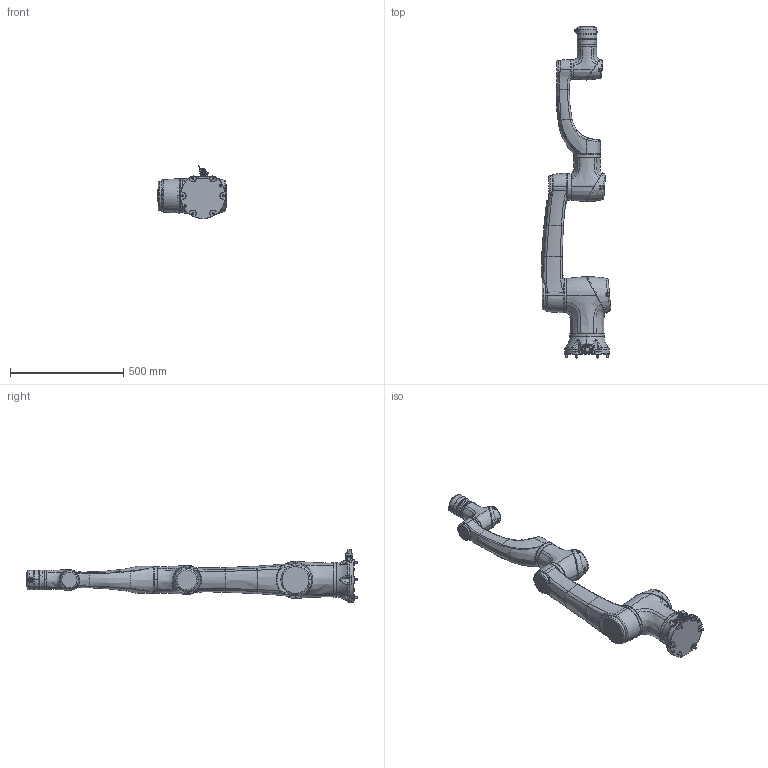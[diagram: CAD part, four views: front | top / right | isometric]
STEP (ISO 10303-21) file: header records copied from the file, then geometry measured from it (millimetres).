
FILE_DESCRIPTION (( 'STEP AP203' ), '1' );
FILE_NAME ('E10-pro儂迮忒_20230227.STEP', '2023-03-06T00:20:54', ( '' ), ( '' ), 'SwSTEP 2.0', 'SolidWorks 2020', '' );
FILE_SCHEMA (( 'CONFIG_CONTROL_DESIGN' ));
Length unit declared in the file: millimetre
Products named in the file (27): 10kg菁釱耀倰_20220706; E10F狟旋郪璃耀倰_20220706; 17粣耀郪妗极耀倰; E10F狟旋耀倰_20220706; E10-pro奻旋耀倰_20230227; Elfin_菁釱郪璃_脣芛釱; M3x14_IP66_20190806_2.0_CB3-16; 17axial_module_妗极耀倰_20220705; Elfin_菁釱郪璃_脣芛裔; 10kg狟旋狟耜裔耀倰_20220706; HREF-01-03-338A P10上臂顶盖（砂纹白）_简化; E10F奻旋耀倰_20220706; HREF-01-04-01-203A1 25模组后端盖_增加锥形孔; E10-pro儂迮忒_20230227; Elfin_底座组件_插头卡环; 10kg奻旋耜裔耀倰_20220706; HREF-01-04-01-165A1 25壽誹俋褲YZ; 17_一体化力矩末端2.0_简化_20230227; HREF-01-03-33A2 5kg狟旋狟耜裔_IP66; 32模组后端盖模型_增加锥形孔; 32axial_module_耀倰_20220627; Elfin_菁釱脣芛; 25axial_module_耀倰_20220705; 32耀郪妗极耀倰_20220705; HREF-01-04-04-125A1 17模组后端盖_增加锥形孔; GB／T70．1-2000内六角圆柱头螺钉M8×30
Assembly tree (42 placements, depth 4):
  E10-pro儂迮忒_20230227
    10kg菁釱耀倰_20220706
      10kg菁釱耀倰_20220706
      Elfin_菁釱脣芛
        Elfin_菁釱郪璃_脣芛釱
        Elfin_菁釱郪璃_脣芛裔
        Elfin_底座组件_插头卡环
    32axial_module_耀倰_20220627
      32耀郪妗极耀倰_20220705
      32模组后端盖模型_增加锥形孔
      M3x14_IP66_20190806_2.0_CB3-16  x4
    E10F狟旋郪璃耀倰_20220706
      E10F狟旋耀倰_20220706
      HREF-01-03-33A2 5kg狟旋狟耜裔_IP66
      10kg狟旋狟耜裔耀倰_20220706
    25axial_module_耀倰_20220705
      M3x14_IP66_20190806_2.0_CB3-16  x4
      HREF-01-04-01-165A1 25壽誹俋褲YZ
      HREF-01-04-01-203A1 25模组后端盖_增加锥形孔
    E10-pro奻旋耀倰_20230227
      E10F奻旋耀倰_20220706
      10kg奻旋耜裔耀倰_20220706
      HREF-01-03-338A P10上臂顶盖（砂纹白）_简化
    17axial_module_妗极耀倰_20220705
      17粣耀郪妗极耀倰
      HREF-01-04-04-125A1 17模组后端盖_增加锥形孔
      M3x14_IP66_20190806_2.0_CB3-16  x4
    GB／T70．1-2000内六角圆柱头螺钉M8×30  x6
    17_一体化力矩末端2.0_简化_20230227
Bounding box: 307.21 x 1468.7 x 234.41 mm (x, y, z)
Volume: 20822681.9 mm3; surface area: 1370420 mm2
Topology: 61 solids, 66 shells, 3688 faces, 8804 edges, 5384 vertices
Faces by surface type: bspline 1110, plane 1065, cylinder 873, cone 375, torus 257, sphere 8
Entity records: 286013 total; most frequent: CARTESIAN_POINT 214094, ORIENTED_EDGE 15872, DIRECTION 11978, EDGE_CURVE 7936, VERTEX_POINT 4913, AXIS2_PLACEMENT_3D 4863, EDGE_LOOP 3623, FACE_OUTER_BOUND 3313
